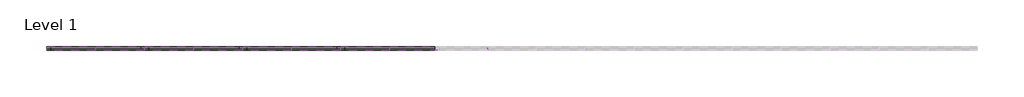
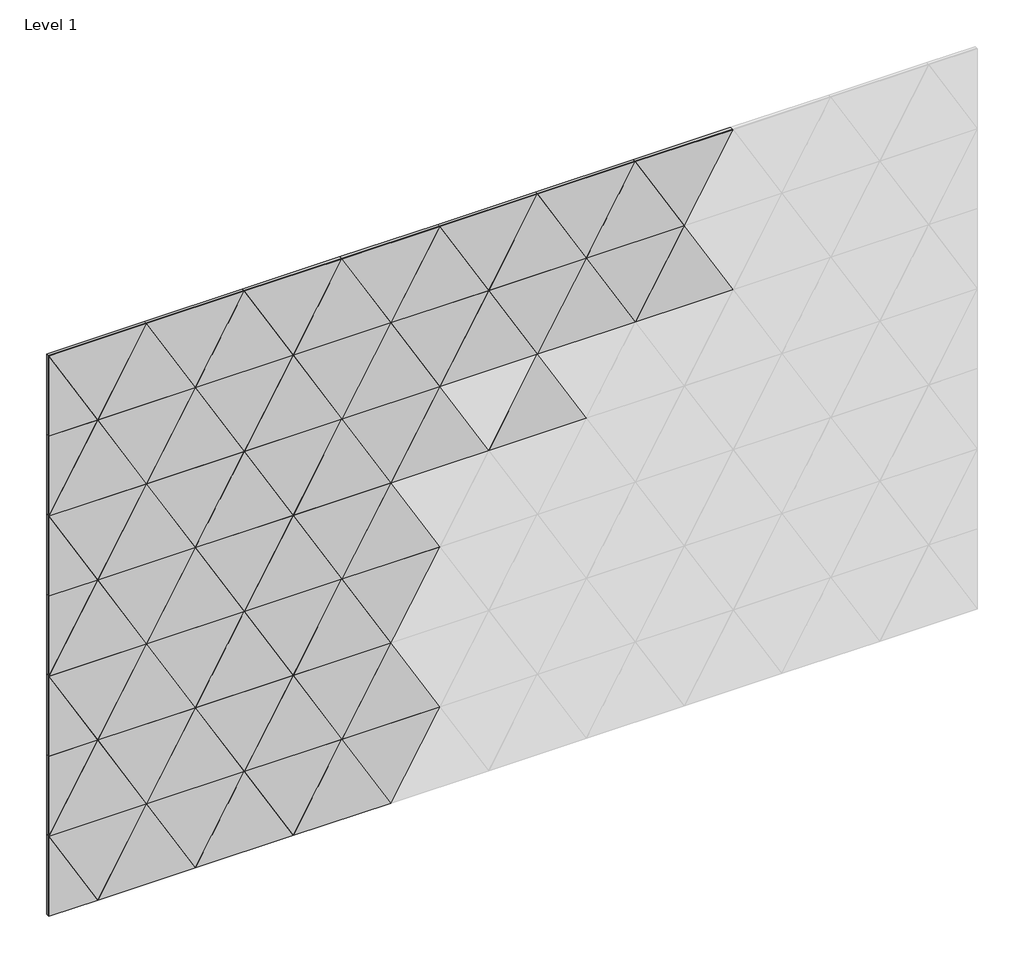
# One storey, part 1 of 2: 70 proxies.
"""IFC4 building model written with IfcOpenShell, lengths in millimetres."""

from ifc_helpers import new_model, si_unit, origin, place, context, project, spatial, transform, mapped, element, save
from components import triangle_60_block_95fa7baf, triangle_60_block_31d98bf3, triangle_60_block_745a5d07

model = new_model("IFC4")

# Units and contexts
model_context = context("Model", 3, world=origin())
ifc_project = project(units=[si_unit("LENGTHUNIT", "METRE", prefix="MILLI")], contexts=[model_context])

# Site, building, storey
site = spatial("IfcSite", under=ifc_project)
building = spatial("IfcBuilding", under=site)
storey = spatial("IfcBuildingStorey", under=building, Name="Level 1", Elevation=0.0)

# Proxies
placement = place(None, origin())
triangle_60_block_shape = triangle_60_block_95fa7baf(model_context)
element("IfcBuildingElementProxy", 1, Name="FilzFelt_Triangle_60_Block : Triangle 60 Block", ObjectType="FilzFelt_Triangle_60_Block : Triangle 60 Block", at=placement, inside=storey, context=model_context, shape_type="MappedRepresentation", body=[
    mapped(triangle_60_block_shape, transform((47358.81159, -3215.9647205, 2243.3090029), x_axis=(1.0, 0.0, 0.0), y_axis=(0.0, 0.0, 1.0), z_axis=(0.0, -1.0, 0.0))),
])
element("IfcBuildingElementProxy", 2, Name="FilzFelt_Triangle_60_Block : Triangle 60 Block", ObjectType="FilzFelt_Triangle_60_Block : Triangle 60 Block", at=placement, inside=storey, context=model_context, shape_type="MappedRepresentation", body=[
    mapped(triangle_60_block_shape, transform((48063.66159, -3215.9647205, 2243.3090029), x_axis=(1.0, 0.0, 0.0), y_axis=(0.0, 0.0, 1.0), z_axis=(0.0, -1.0, 0.0))),
])
element("IfcBuildingElementProxy", 3, Name="FilzFelt_Triangle_60_Block : Triangle 60 Block", ObjectType="FilzFelt_Triangle_60_Block : Triangle 60 Block", at=placement, inside=storey, context=model_context, shape_type="MappedRepresentation", body=[
    mapped(triangle_60_block_shape, transform((48592.29909, -3215.9647205, 2243.5180059), x_axis=(-1.0, 0.0, 0.0), y_axis=(0.0, 0.0, -1.0), z_axis=(0.0, -1.0, 0.0))),
])
element("IfcBuildingElementProxy", 4, Name="FilzFelt_Triangle_60_Block : Triangle 60 Block", ObjectType="FilzFelt_Triangle_60_Block : Triangle 60 Block", at=placement, inside=storey, context=model_context, shape_type="MappedRepresentation", body=[
    mapped(triangle_60_block_shape, transform((46830.17409, -3215.9647205, 2243.5180059), x_axis=(-1.0, 0.0, 0.0), y_axis=(0.0, 0.0, -1.0), z_axis=(0.0, -1.0, 0.0))),
])
element("IfcBuildingElementProxy", 5, Name="FilzFelt_Triangle_60_Block : Triangle 60 Block", ObjectType="FilzFelt_Triangle_60_Block : Triangle 60 Block", at=placement, inside=storey, context=model_context, shape_type="MappedRepresentation", body=[
    mapped(triangle_60_block_shape, transform((47006.38659, -3215.9647205, 1938.3090029), x_axis=(-1.0, 0.0, 0.0), y_axis=(0.0, 0.0, -1.0), z_axis=(0.0, -1.0, 0.0))),
])
element("IfcBuildingElementProxy", 6, Name="FilzFelt_Triangle_60_Block : Triangle 60 Block", ObjectType="FilzFelt_Triangle_60_Block : Triangle 60 Block", at=placement, inside=storey, context=model_context, shape_type="MappedRepresentation", body=[
    mapped(triangle_60_block_shape, transform((47711.23659, -3215.9647205, 1938.3090029), x_axis=(-1.0, 0.0, 0.0), y_axis=(0.0, 0.0, -1.0), z_axis=(0.0, -1.0, 0.0))),
])
element("IfcBuildingElementProxy", 7, Name="FilzFelt_Triangle_60_Block : Triangle 60 Block", ObjectType="FilzFelt_Triangle_60_Block : Triangle 60 Block", at=placement, inside=storey, context=model_context, shape_type="MappedRepresentation", body=[
    mapped(triangle_60_block_shape, transform((48768.51159, -3215.9647205, 1938.3090029), x_axis=(-1.0, 0.0, 0.0), y_axis=(0.0, 0.0, -1.0), z_axis=(0.0, -1.0, 0.0))),
])
element("IfcBuildingElementProxy", 8, Name="FilzFelt_Triangle_60_Block : Triangle 60 Block", ObjectType="FilzFelt_Triangle_60_Block : Triangle 60 Block", at=placement, inside=storey, context=model_context, shape_type="MappedRepresentation", body=[
    mapped(triangle_60_block_shape, transform((47535.02409, -3215.9647205, 1633.1), x_axis=(-1.0, 0.0, 0.0), y_axis=(0.0, 0.0, -1.0), z_axis=(0.0, -1.0, 0.0))),
])
element("IfcBuildingElementProxy", 9, Name="FilzFelt_Triangle_60_Block : Triangle 60 Block", ObjectType="FilzFelt_Triangle_60_Block : Triangle 60 Block", at=placement, inside=storey, context=model_context, shape_type="MappedRepresentation", body=[
    mapped(triangle_60_block_shape, transform((46830.17409, -3215.9647205, 1633.1), x_axis=(-1.0, 0.0, 0.0), y_axis=(0.0, 0.0, -1.0), z_axis=(0.0, -1.0, 0.0))),
])
element("IfcBuildingElementProxy", 10, Name="FilzFelt_Triangle_60_Block : Triangle 60 Block", ObjectType="FilzFelt_Triangle_60_Block : Triangle 60 Block", at=placement, inside=storey, context=model_context, shape_type="MappedRepresentation", body=[
    mapped(triangle_60_block_shape, transform((47182.59909, -3215.9647205, 1327.6819941), x_axis=(1.0, 0.0, 0.0), y_axis=(0.0, 0.0, 1.0), z_axis=(0.0, -1.0, 0.0))),
])
element("IfcBuildingElementProxy", 11, Name="FilzFelt_Triangle_60_Block : Triangle 60 Block", ObjectType="FilzFelt_Triangle_60_Block : Triangle 60 Block", at=placement, inside=storey, context=model_context, shape_type="MappedRepresentation", body=[
    mapped(triangle_60_block_shape, transform((47887.44909, -3215.9647205, 1327.6819941), x_axis=(1.0, 0.0, 0.0), y_axis=(0.0, 0.0, 1.0), z_axis=(0.0, -1.0, 0.0))),
])
element("IfcBuildingElementProxy", 12, Name="FilzFelt_Triangle_60_Block : Triangle 60 Block", ObjectType="FilzFelt_Triangle_60_Block : Triangle 60 Block", at=placement, inside=storey, context=model_context, shape_type="MappedRepresentation", body=[
    mapped(triangle_60_block_shape, transform((47006.38659, -3215.9647205, 1022.4729912), x_axis=(1.0, 0.0, 0.0), y_axis=(0.0, 0.0, 1.0), z_axis=(0.0, -1.0, 0.0))),
])
element("IfcBuildingElementProxy", 13, Name="FilzFelt_Triangle_60_Block : Triangle 60 Block", ObjectType="FilzFelt_Triangle_60_Block : Triangle 60 Block", at=placement, inside=storey, context=model_context, shape_type="MappedRepresentation", body=[
    mapped(triangle_60_block_shape, transform((47358.81159, -3215.9647205, 1022.4729912), x_axis=(1.0, 0.0, 0.0), y_axis=(0.0, 0.0, 1.0), z_axis=(0.0, -1.0, 0.0))),
])
element("IfcBuildingElementProxy", 14, Name="FilzFelt_Triangle_60_Block : Triangle 60 Block", ObjectType="FilzFelt_Triangle_60_Block : Triangle 60 Block", at=placement, inside=storey, context=model_context, shape_type="MappedRepresentation", body=[
    mapped(triangle_60_block_shape, transform((47711.23659, -3215.9647205, 1022.4729912), x_axis=(1.0, 0.0, 0.0), y_axis=(0.0, 0.0, 1.0), z_axis=(0.0, -1.0, 0.0))),
])
element("IfcBuildingElementProxy", 15, Name="FilzFelt_Triangle_60_Block : Triangle 60 Block", ObjectType="FilzFelt_Triangle_60_Block : Triangle 60 Block", at=placement, inside=storey, context=model_context, shape_type="MappedRepresentation", body=[
    mapped(triangle_60_block_shape, transform((47535.02409, -3215.9647205, 1022.6819941), x_axis=(-1.0, 0.0, 0.0), y_axis=(0.0, 0.0, -1.0), z_axis=(0.0, -1.0, 0.0))),
])
element("IfcBuildingElementProxy", 16, Name="FilzFelt_Triangle_60_Block : Triangle 60 Block", ObjectType="FilzFelt_Triangle_60_Block : Triangle 60 Block", at=placement, inside=storey, context=model_context, shape_type="MappedRepresentation", body=[
    mapped(triangle_60_block_shape, transform((47358.81159, -3215.9647205, 717.4729912), x_axis=(-1.0, 0.0, 0.0), y_axis=(0.0, 0.0, -1.0), z_axis=(0.0, -1.0, 0.0))),
])
element("IfcBuildingElementProxy", 17, Name="FilzFelt_Triangle_60_Block : Triangle 60 Block", ObjectType="FilzFelt_Triangle_60_Block : Triangle 60 Block", at=placement, inside=storey, context=model_context, shape_type="MappedRepresentation", body=[
    mapped(triangle_60_block_shape, transform((47535.02409, -3215.9647205, 412.2639883), x_axis=(-1.0, 0.0, 0.0), y_axis=(0.0, 0.0, -1.0), z_axis=(0.0, -1.0, 0.0))),
])
triangle_60_block_2_shape = triangle_60_block_31d98bf3(model_context)
element("IfcBuildingElementProxy", 18, Name="FilzFelt_Triangle_60_Block : Triangle 60 Block", ObjectType="FilzFelt_Triangle_60_Block : Triangle 60 Block", at=placement, inside=storey, context=model_context, shape_type="MappedRepresentation", body=[
    mapped(triangle_60_block_2_shape, transform((46653.96159, -3215.9647205, 412.0549854), x_axis=(1.0, 0.0, 0.0), y_axis=(0.0, 0.0, 1.0), z_axis=(0.0, -1.0, 0.0))),
])
element("IfcBuildingElementProxy", 19, Name="FilzFelt_Triangle_60_Block : Triangle 60 Block", ObjectType="FilzFelt_Triangle_60_Block : Triangle 60 Block", at=placement, inside=storey, context=model_context, shape_type="MappedRepresentation", body=[
    mapped(triangle_60_block_shape, transform((47006.38659, -3215.9647205, 2243.3090029), x_axis=(1.0, 0.0, 0.0), y_axis=(0.0, 0.0, 1.0), z_axis=(0.0, -1.0, 0.0))),
])
element("IfcBuildingElementProxy", 20, Name="FilzFelt_Triangle_60_Block : Triangle 60 Block", ObjectType="FilzFelt_Triangle_60_Block : Triangle 60 Block", at=placement, inside=storey, context=model_context, shape_type="MappedRepresentation", body=[
    mapped(triangle_60_block_shape, transform((48416.08659, -3215.9647205, 2243.3090029), x_axis=(1.0, 0.0, 0.0), y_axis=(0.0, 0.0, 1.0), z_axis=(0.0, -1.0, 0.0))),
])
element("IfcBuildingElementProxy", 21, Name="FilzFelt_Triangle_60_Block : Triangle 60 Block", ObjectType="FilzFelt_Triangle_60_Block : Triangle 60 Block", at=placement, inside=storey, context=model_context, shape_type="MappedRepresentation", body=[
    mapped(triangle_60_block_shape, transform((47535.02409, -3215.9647205, 2243.5180059), x_axis=(-1.0, 0.0, 0.0), y_axis=(0.0, 0.0, -1.0), z_axis=(0.0, -1.0, 0.0))),
])
element("IfcBuildingElementProxy", 22, Name="FilzFelt_Triangle_60_Block : Triangle 60 Block", ObjectType="FilzFelt_Triangle_60_Block : Triangle 60 Block", at=placement, inside=storey, context=model_context, shape_type="MappedRepresentation", body=[
    mapped(triangle_60_block_shape, transform((47887.44909, -3215.9647205, 2243.5180059), x_axis=(-1.0, 0.0, 0.0), y_axis=(0.0, 0.0, -1.0), z_axis=(0.0, -1.0, 0.0))),
])
element("IfcBuildingElementProxy", 23, Name="FilzFelt_Triangle_60_Block : Triangle 60 Block", ObjectType="FilzFelt_Triangle_60_Block : Triangle 60 Block", at=placement, inside=storey, context=model_context, shape_type="MappedRepresentation", body=[
    mapped(triangle_60_block_shape, transform((48944.72409, -3215.9647205, 2243.5180059), x_axis=(-1.0, 0.0, 0.0), y_axis=(0.0, 0.0, -1.0), z_axis=(0.0, -1.0, 0.0))),
])
element("IfcBuildingElementProxy", 24, Name="FilzFelt_Triangle_60_Block : Triangle 60 Block", ObjectType="FilzFelt_Triangle_60_Block : Triangle 60 Block", at=placement, inside=storey, context=model_context, shape_type="MappedRepresentation", body=[
    mapped(triangle_60_block_shape, transform((47182.59909, -3215.9647205, 1938.1), x_axis=(1.0, 0.0, 0.0), y_axis=(0.0, 0.0, 1.0), z_axis=(0.0, -1.0, 0.0))),
])
element("IfcBuildingElementProxy", 25, Name="FilzFelt_Triangle_60_Block : Triangle 60 Block", ObjectType="FilzFelt_Triangle_60_Block : Triangle 60 Block", at=placement, inside=storey, context=model_context, shape_type="MappedRepresentation", body=[
    mapped(triangle_60_block_shape, transform((48239.87409, -3215.9647205, 1938.1), x_axis=(1.0, 0.0, 0.0), y_axis=(0.0, 0.0, 1.0), z_axis=(0.0, -1.0, 0.0))),
])
element("IfcBuildingElementProxy", 26, Name="FilzFelt_Triangle_60_Block : Triangle 60 Block", ObjectType="FilzFelt_Triangle_60_Block : Triangle 60 Block", at=placement, inside=storey, context=model_context, shape_type="MappedRepresentation", body=[
    mapped(triangle_60_block_shape, transform((47006.38659, -3215.9647205, 1632.8909971), x_axis=(1.0, 0.0, 0.0), y_axis=(0.0, 0.0, 1.0), z_axis=(0.0, -1.0, 0.0))),
])
element("IfcBuildingElementProxy", 27, Name="FilzFelt_Triangle_60_Block : Triangle 60 Block", ObjectType="FilzFelt_Triangle_60_Block : Triangle 60 Block", at=placement, inside=storey, context=model_context, shape_type="MappedRepresentation", body=[
    mapped(triangle_60_block_shape, transform((47887.44909, -3215.9647205, 1633.1), x_axis=(-1.0, 0.0, 0.0), y_axis=(0.0, 0.0, -1.0), z_axis=(0.0, -1.0, 0.0))),
])
element("IfcBuildingElementProxy", 28, Name="FilzFelt_Triangle_60_Block : Triangle 60 Block", ObjectType="FilzFelt_Triangle_60_Block : Triangle 60 Block", at=placement, inside=storey, context=model_context, shape_type="MappedRepresentation", body=[
    mapped(triangle_60_block_shape, transform((47358.81159, -3215.9647205, 1327.8909971), x_axis=(-1.0, 0.0, 0.0), y_axis=(0.0, 0.0, -1.0), z_axis=(0.0, -1.0, 0.0))),
])
element("IfcBuildingElementProxy", 29, Name="FilzFelt_Triangle_60_Block : Triangle 60 Block", ObjectType="FilzFelt_Triangle_60_Block : Triangle 60 Block", at=placement, inside=storey, context=model_context, shape_type="MappedRepresentation", body=[
    mapped(triangle_60_block_shape, transform((47711.23659, -3215.9647205, 1327.8909971), x_axis=(-1.0, 0.0, 0.0), y_axis=(0.0, 0.0, -1.0), z_axis=(0.0, -1.0, 0.0))),
])
element("IfcBuildingElementProxy", 30, Name="FilzFelt_Triangle_60_Block : Triangle 60 Block", ObjectType="FilzFelt_Triangle_60_Block : Triangle 60 Block", at=placement, inside=storey, context=model_context, shape_type="MappedRepresentation", body=[
    mapped(triangle_60_block_shape, transform((46830.17409, -3215.9647205, 1022.6819941), x_axis=(-1.0, 0.0, 0.0), y_axis=(0.0, 0.0, -1.0), z_axis=(0.0, -1.0, 0.0))),
])
element("IfcBuildingElementProxy", 31, Name="FilzFelt_Triangle_60_Block : Triangle 60 Block", ObjectType="FilzFelt_Triangle_60_Block : Triangle 60 Block", at=placement, inside=storey, context=model_context, shape_type="MappedRepresentation", body=[
    mapped(triangle_60_block_shape, transform((47006.38659, -3215.9647205, 717.4729912), x_axis=(-1.0, 0.0, 0.0), y_axis=(0.0, 0.0, -1.0), z_axis=(0.0, -1.0, 0.0))),
])
element("IfcBuildingElementProxy", 32, Name="FilzFelt_Triangle_60_Block : Triangle 60 Block", ObjectType="FilzFelt_Triangle_60_Block : Triangle 60 Block", at=placement, inside=storey, context=model_context, shape_type="MappedRepresentation", body=[
    mapped(triangle_60_block_shape, transform((47535.02409, -3215.9647205, 717.2639883), x_axis=(1.0, 0.0, 0.0), y_axis=(0.0, 0.0, 1.0), z_axis=(0.0, -1.0, 0.0))),
])
element("IfcBuildingElementProxy", 33, Name="FilzFelt_Triangle_60_Block : Triangle 60 Block", ObjectType="FilzFelt_Triangle_60_Block : Triangle 60 Block", at=placement, inside=storey, context=model_context, shape_type="MappedRepresentation", body=[
    mapped(triangle_60_block_shape, transform((47887.44909, -3215.9647205, 717.2639883), x_axis=(1.0, 0.0, 0.0), y_axis=(0.0, 0.0, 1.0), z_axis=(0.0, -1.0, 0.0))),
])
element("IfcBuildingElementProxy", 34, Name="FilzFelt_Triangle_60_Block : Triangle 60 Block", ObjectType="FilzFelt_Triangle_60_Block : Triangle 60 Block", at=placement, inside=storey, context=model_context, shape_type="MappedRepresentation", body=[
    mapped(triangle_60_block_shape, transform((47711.23659, -3215.9647205, 412.0549854), x_axis=(1.0, 0.0, 0.0), y_axis=(0.0, 0.0, 1.0), z_axis=(0.0, -1.0, 0.0))),
])
element("IfcBuildingElementProxy", 35, Name="FilzFelt_Triangle_60_Block : Triangle 60 Block", ObjectType="FilzFelt_Triangle_60_Block : Triangle 60 Block", at=placement, inside=storey, context=model_context, shape_type="MappedRepresentation", body=[
    mapped(triangle_60_block_shape, transform((47182.59909, -3215.9647205, 412.2639883), x_axis=(-1.0, 0.0, 0.0), y_axis=(0.0, 0.0, -1.0), z_axis=(0.0, -1.0, 0.0))),
])
element("IfcBuildingElementProxy", 36, Name="FilzFelt_Triangle_60_Block : Triangle 60 Block", ObjectType="FilzFelt_Triangle_60_Block : Triangle 60 Block", at=placement, inside=storey, context=model_context, shape_type="MappedRepresentation", body=[
    mapped(triangle_60_block_shape, transform((46830.17409, -3215.9647205, 412.2639883), x_axis=(-1.0, 0.0, 0.0), y_axis=(0.0, 0.0, -1.0), z_axis=(0.0, -1.0, 0.0))),
])
triangle_60_block_3_shape = triangle_60_block_745a5d07(model_context)
element("IfcBuildingElementProxy", 37, Name="FilzFelt_Triangle_60_Block : Triangle 60 Block", ObjectType="FilzFelt_Triangle_60_Block : Triangle 60 Block", at=placement, inside=storey, context=model_context, shape_type="MappedRepresentation", body=[
    mapped(triangle_60_block_3_shape, transform((46653.96159, -3215.9647205, 1938.3090029), x_axis=(1.0, 0.0, 0.0), y_axis=(0.0, 0.0, 1.0), z_axis=(0.0, -1.0, 0.0))),
])
element("IfcBuildingElementProxy", 38, Name="FilzFelt_Triangle_60_Block : Triangle 60 Block", ObjectType="FilzFelt_Triangle_60_Block : Triangle 60 Block", at=placement, inside=storey, context=model_context, shape_type="MappedRepresentation", body=[
    mapped(triangle_60_block_3_shape, transform((46653.96159, -3215.9647205, 1327.8909971), x_axis=(1.0, 0.0, 0.0), y_axis=(0.0, 0.0, 1.0), z_axis=(0.0, -1.0, 0.0))),
])
element("IfcBuildingElementProxy", 39, Name="FilzFelt_Triangle_60_Block : Triangle 60 Block", ObjectType="FilzFelt_Triangle_60_Block : Triangle 60 Block", at=placement, inside=storey, context=model_context, shape_type="MappedRepresentation", body=[
    mapped(triangle_60_block_shape, transform((47711.23659, -3215.9647205, 2243.3090029), x_axis=(1.0, 0.0, 0.0), y_axis=(0.0, 0.0, 1.0), z_axis=(0.0, -1.0, 0.0))),
])
element("IfcBuildingElementProxy", 40, Name="FilzFelt_Triangle_60_Block : Triangle 60 Block", ObjectType="FilzFelt_Triangle_60_Block : Triangle 60 Block", at=placement, inside=storey, context=model_context, shape_type="MappedRepresentation", body=[
    mapped(triangle_60_block_shape, transform((48768.51159, -3215.9647205, 2243.3090029), x_axis=(1.0, 0.0, 0.0), y_axis=(0.0, 0.0, 1.0), z_axis=(0.0, -1.0, 0.0))),
])
element("IfcBuildingElementProxy", 41, Name="FilzFelt_Triangle_60_Block : Triangle 60 Block", ObjectType="FilzFelt_Triangle_60_Block : Triangle 60 Block", at=placement, inside=storey, context=model_context, shape_type="MappedRepresentation", body=[
    mapped(triangle_60_block_shape, transform((46830.17409, -3215.9647205, 1938.1), x_axis=(1.0, 0.0, 0.0), y_axis=(0.0, 0.0, 1.0), z_axis=(0.0, -1.0, 0.0))),
])
element("IfcBuildingElementProxy", 42, Name="FilzFelt_Triangle_60_Block : Triangle 60 Block", ObjectType="FilzFelt_Triangle_60_Block : Triangle 60 Block", at=placement, inside=storey, context=model_context, shape_type="MappedRepresentation", body=[
    mapped(triangle_60_block_shape, transform((47358.81159, -3215.9647205, 1938.3090029), x_axis=(-1.0, 0.0, 0.0), y_axis=(0.0, 0.0, -1.0), z_axis=(0.0, -1.0, 0.0))),
])
element("IfcBuildingElementProxy", 43, Name="FilzFelt_Triangle_60_Block : Triangle 60 Block", ObjectType="FilzFelt_Triangle_60_Block : Triangle 60 Block", at=placement, inside=storey, context=model_context, shape_type="MappedRepresentation", body=[
    mapped(triangle_60_block_shape, transform((47887.44909, -3215.9647205, 1938.1), x_axis=(1.0, 0.0, 0.0), y_axis=(0.0, 0.0, 1.0), z_axis=(0.0, -1.0, 0.0))),
])
element("IfcBuildingElementProxy", 44, Name="FilzFelt_Triangle_60_Block : Triangle 60 Block", ObjectType="FilzFelt_Triangle_60_Block : Triangle 60 Block", at=placement, inside=storey, context=model_context, shape_type="MappedRepresentation", body=[
    mapped(triangle_60_block_shape, transform((48416.08659, -3215.9647205, 1938.3090029), x_axis=(-1.0, 0.0, 0.0), y_axis=(0.0, 0.0, -1.0), z_axis=(0.0, -1.0, 0.0))),
])
element("IfcBuildingElementProxy", 45, Name="FilzFelt_Triangle_60_Block : Triangle 60 Block", ObjectType="FilzFelt_Triangle_60_Block : Triangle 60 Block", at=placement, inside=storey, context=model_context, shape_type="MappedRepresentation", body=[
    mapped(triangle_60_block_shape, transform((48944.72409, -3215.9647205, 1938.1), x_axis=(1.0, 0.0, 0.0), y_axis=(0.0, 0.0, 1.0), z_axis=(0.0, -1.0, 0.0))),
])
element("IfcBuildingElementProxy", 46, Name="FilzFelt_Triangle_60_Block : Triangle 60 Block", ObjectType="FilzFelt_Triangle_60_Block : Triangle 60 Block", at=placement, inside=storey, context=model_context, shape_type="MappedRepresentation", body=[
    mapped(triangle_60_block_shape, transform((47358.81159, -3215.9647205, 1632.8909971), x_axis=(1.0, 0.0, 0.0), y_axis=(0.0, 0.0, 1.0), z_axis=(0.0, -1.0, 0.0))),
])
element("IfcBuildingElementProxy", 47, Name="FilzFelt_Triangle_60_Block : Triangle 60 Block", ObjectType="FilzFelt_Triangle_60_Block : Triangle 60 Block", at=placement, inside=storey, context=model_context, shape_type="MappedRepresentation", body=[
    mapped(triangle_60_block_shape, transform((48063.66159, -3215.9647205, 1632.8909971), x_axis=(1.0, 0.0, 0.0), y_axis=(0.0, 0.0, 1.0), z_axis=(0.0, -1.0, 0.0))),
])
element("IfcBuildingElementProxy", 48, Name="FilzFelt_Triangle_60_Block : Triangle 60 Block", ObjectType="FilzFelt_Triangle_60_Block : Triangle 60 Block", at=placement, inside=storey, context=model_context, shape_type="MappedRepresentation", body=[
    mapped(triangle_60_block_shape, transform((47006.38659, -3215.9647205, 1327.8909971), x_axis=(-1.0, 0.0, 0.0), y_axis=(0.0, 0.0, -1.0), z_axis=(0.0, -1.0, 0.0))),
])
element("IfcBuildingElementProxy", 49, Name="FilzFelt_Triangle_60_Block : Triangle 60 Block", ObjectType="FilzFelt_Triangle_60_Block : Triangle 60 Block", at=placement, inside=storey, context=model_context, shape_type="MappedRepresentation", body=[
    mapped(triangle_60_block_shape, transform((47535.02409, -3215.9647205, 1327.6819941), x_axis=(1.0, 0.0, 0.0), y_axis=(0.0, 0.0, 1.0), z_axis=(0.0, -1.0, 0.0))),
])
element("IfcBuildingElementProxy", 50, Name="FilzFelt_Triangle_60_Block : Triangle 60 Block", ObjectType="FilzFelt_Triangle_60_Block : Triangle 60 Block", at=placement, inside=storey, context=model_context, shape_type="MappedRepresentation", body=[
    mapped(triangle_60_block_shape, transform((46830.17409, -3215.9647205, 717.2639883), x_axis=(1.0, 0.0, 0.0), y_axis=(0.0, 0.0, 1.0), z_axis=(0.0, -1.0, 0.0))),
])
element("IfcBuildingElementProxy", 51, Name="FilzFelt_Triangle_60_Block : Triangle 60 Block", ObjectType="FilzFelt_Triangle_60_Block : Triangle 60 Block", at=placement, inside=storey, context=model_context, shape_type="MappedRepresentation", body=[
    mapped(triangle_60_block_shape, transform((47182.59909, -3215.9647205, 717.2639883), x_axis=(1.0, 0.0, 0.0), y_axis=(0.0, 0.0, 1.0), z_axis=(0.0, -1.0, 0.0))),
])
element("IfcBuildingElementProxy", 52, Name="FilzFelt_Triangle_60_Block : Triangle 60 Block", ObjectType="FilzFelt_Triangle_60_Block : Triangle 60 Block", at=placement, inside=storey, context=model_context, shape_type="MappedRepresentation", body=[
    mapped(triangle_60_block_shape, transform((47358.81159, -3215.9647205, 412.0549854), x_axis=(1.0, 0.0, 0.0), y_axis=(0.0, 0.0, 1.0), z_axis=(0.0, -1.0, 0.0))),
])
element("IfcBuildingElementProxy", 53, Name="FilzFelt_Triangle_60_Block : Triangle 60 Block", ObjectType="FilzFelt_Triangle_60_Block : Triangle 60 Block", at=placement, inside=storey, context=model_context, shape_type="MappedRepresentation", body=[
    mapped(triangle_60_block_2_shape, transform((46653.96159, -3215.9647205, 1022.4729912), x_axis=(1.0, 0.0, 0.0), y_axis=(0.0, 0.0, 1.0), z_axis=(0.0, -1.0, 0.0))),
])
element("IfcBuildingElementProxy", 54, Name="FilzFelt_Triangle_60_Block : Triangle 60 Block", ObjectType="FilzFelt_Triangle_60_Block : Triangle 60 Block", at=placement, inside=storey, context=model_context, shape_type="MappedRepresentation", body=[
    mapped(triangle_60_block_shape, transform((47182.59909, -3215.9647205, 2243.5180059), x_axis=(-1.0, 0.0, 0.0), y_axis=(0.0, 0.0, -1.0), z_axis=(0.0, -1.0, 0.0))),
])
element("IfcBuildingElementProxy", 55, Name="FilzFelt_Triangle_60_Block : Triangle 60 Block", ObjectType="FilzFelt_Triangle_60_Block : Triangle 60 Block", at=placement, inside=storey, context=model_context, shape_type="MappedRepresentation", body=[
    mapped(triangle_60_block_shape, transform((48239.87409, -3215.9647205, 2243.5180059), x_axis=(-1.0, 0.0, 0.0), y_axis=(0.0, 0.0, -1.0), z_axis=(0.0, -1.0, 0.0))),
])
element("IfcBuildingElementProxy", 56, Name="FilzFelt_Triangle_60_Block : Triangle 60 Block", ObjectType="FilzFelt_Triangle_60_Block : Triangle 60 Block", at=placement, inside=storey, context=model_context, shape_type="MappedRepresentation", body=[
    mapped(triangle_60_block_shape, transform((47535.02409, -3215.9647205, 1938.1), x_axis=(1.0, 0.0, 0.0), y_axis=(0.0, 0.0, 1.0), z_axis=(0.0, -1.0, 0.0))),
])
element("IfcBuildingElementProxy", 57, Name="FilzFelt_Triangle_60_Block : Triangle 60 Block", ObjectType="FilzFelt_Triangle_60_Block : Triangle 60 Block", at=placement, inside=storey, context=model_context, shape_type="MappedRepresentation", body=[
    mapped(triangle_60_block_shape, transform((48063.66159, -3215.9647205, 1938.3090029), x_axis=(-1.0, 0.0, 0.0), y_axis=(0.0, 0.0, -1.0), z_axis=(0.0, -1.0, 0.0))),
])
element("IfcBuildingElementProxy", 58, Name="FilzFelt_Triangle_60_Block : Triangle 60 Block", ObjectType="FilzFelt_Triangle_60_Block : Triangle 60 Block", at=placement, inside=storey, context=model_context, shape_type="MappedRepresentation", body=[
    mapped(triangle_60_block_shape, transform((48592.29909, -3215.9647205, 1938.1), x_axis=(1.0, 0.0, 0.0), y_axis=(0.0, 0.0, 1.0), z_axis=(0.0, -1.0, 0.0))),
])
element("IfcBuildingElementProxy", 59, Name="FilzFelt_Triangle_60_Block : Triangle 60 Block", ObjectType="FilzFelt_Triangle_60_Block : Triangle 60 Block", at=placement, inside=storey, context=model_context, shape_type="MappedRepresentation", body=[
    mapped(triangle_60_block_shape, transform((47711.23659, -3215.9647205, 1632.8909971), x_axis=(1.0, 0.0, 0.0), y_axis=(0.0, 0.0, 1.0), z_axis=(0.0, -1.0, 0.0))),
])
element("IfcBuildingElementProxy", 60, Name="FilzFelt_Triangle_60_Block : Triangle 60 Block", ObjectType="FilzFelt_Triangle_60_Block : Triangle 60 Block", at=placement, inside=storey, context=model_context, shape_type="MappedRepresentation", body=[
    mapped(triangle_60_block_shape, transform((48416.08659, -3215.9647205, 1632.8909971), x_axis=(1.0, 0.0, 0.0), y_axis=(0.0, 0.0, 1.0), z_axis=(0.0, -1.0, 0.0))),
])
element("IfcBuildingElementProxy", 61, Name="FilzFelt_Triangle_60_Block : Triangle 60 Block", ObjectType="FilzFelt_Triangle_60_Block : Triangle 60 Block", at=placement, inside=storey, context=model_context, shape_type="MappedRepresentation", body=[
    mapped(triangle_60_block_shape, transform((47182.59909, -3215.9647205, 1633.1), x_axis=(-1.0, 0.0, 0.0), y_axis=(0.0, 0.0, -1.0), z_axis=(0.0, -1.0, 0.0))),
])
element("IfcBuildingElementProxy", 62, Name="FilzFelt_Triangle_60_Block : Triangle 60 Block", ObjectType="FilzFelt_Triangle_60_Block : Triangle 60 Block", at=placement, inside=storey, context=model_context, shape_type="MappedRepresentation", body=[
    mapped(triangle_60_block_shape, transform((46830.17409, -3215.9647205, 1327.6819941), x_axis=(1.0, 0.0, 0.0), y_axis=(0.0, 0.0, 1.0), z_axis=(0.0, -1.0, 0.0))),
])
element("IfcBuildingElementProxy", 63, Name="FilzFelt_Triangle_60_Block : Triangle 60 Block", ObjectType="FilzFelt_Triangle_60_Block : Triangle 60 Block", at=placement, inside=storey, context=model_context, shape_type="MappedRepresentation", body=[
    mapped(triangle_60_block_shape, transform((47182.59909, -3215.9647205, 1022.6819941), x_axis=(-1.0, 0.0, 0.0), y_axis=(0.0, 0.0, -1.0), z_axis=(0.0, -1.0, 0.0))),
])
element("IfcBuildingElementProxy", 64, Name="FilzFelt_Triangle_60_Block : Triangle 60 Block", ObjectType="FilzFelt_Triangle_60_Block : Triangle 60 Block", at=placement, inside=storey, context=model_context, shape_type="MappedRepresentation", body=[
    mapped(triangle_60_block_shape, transform((47887.44909, -3215.9647205, 1022.6819941), x_axis=(-1.0, 0.0, 0.0), y_axis=(0.0, 0.0, -1.0), z_axis=(0.0, -1.0, 0.0))),
])
element("IfcBuildingElementProxy", 65, Name="FilzFelt_Triangle_60_Block : Triangle 60 Block", ObjectType="FilzFelt_Triangle_60_Block : Triangle 60 Block", at=placement, inside=storey, context=model_context, shape_type="MappedRepresentation", body=[
    mapped(triangle_60_block_shape, transform((47711.23659, -3215.9647205, 717.4729912), x_axis=(-1.0, 0.0, 0.0), y_axis=(0.0, 0.0, -1.0), z_axis=(0.0, -1.0, 0.0))),
])
element("IfcBuildingElementProxy", 66, Name="FilzFelt_Triangle_60_Block : Triangle 60 Block", ObjectType="FilzFelt_Triangle_60_Block : Triangle 60 Block", at=placement, inside=storey, context=model_context, shape_type="MappedRepresentation", body=[
    mapped(triangle_60_block_shape, transform((47006.38659, -3215.9647205, 412.0549854), x_axis=(1.0, 0.0, 0.0), y_axis=(0.0, 0.0, 1.0), z_axis=(0.0, -1.0, 0.0))),
])
element("IfcBuildingElementProxy", 67, Name="FilzFelt_Triangle_60_Block : Triangle 60 Block", ObjectType="FilzFelt_Triangle_60_Block : Triangle 60 Block", at=placement, inside=storey, context=model_context, shape_type="MappedRepresentation", body=[
    mapped(triangle_60_block_shape, transform((47887.44909, -3215.9647205, 412.2639883), x_axis=(-1.0, 0.0, 0.0), y_axis=(0.0, 0.0, -1.0), z_axis=(0.0, -1.0, 0.0))),
])
element("IfcBuildingElementProxy", 68, Name="FilzFelt_Triangle_60_Block : Triangle 60 Block", ObjectType="FilzFelt_Triangle_60_Block : Triangle 60 Block", at=placement, inside=storey, context=model_context, shape_type="MappedRepresentation", body=[
    mapped(triangle_60_block_2_shape, transform((46653.96159, -3215.9647205, 2243.3090029), x_axis=(1.0, 0.0, 0.0), y_axis=(0.0, 0.0, 1.0), z_axis=(0.0, -1.0, 0.0))),
])
element("IfcBuildingElementProxy", 69, Name="FilzFelt_Triangle_60_Block : Triangle 60 Block", ObjectType="FilzFelt_Triangle_60_Block : Triangle 60 Block", at=placement, inside=storey, context=model_context, shape_type="MappedRepresentation", body=[
    mapped(triangle_60_block_2_shape, transform((46653.96159, -3215.9647205, 1632.8909971), x_axis=(1.0, 0.0, 0.0), y_axis=(0.0, 0.0, 1.0), z_axis=(0.0, -1.0, 0.0))),
])
element("IfcBuildingElementProxy", 70, Name="FilzFelt_Triangle_60_Block : Triangle 60 Block", ObjectType="FilzFelt_Triangle_60_Block : Triangle 60 Block", at=placement, inside=storey, context=model_context, shape_type="MappedRepresentation", body=[
    mapped(triangle_60_block_3_shape, transform((46653.96159, -3215.9647205, 717.4729912), x_axis=(1.0, 0.0, 0.0), y_axis=(0.0, 0.0, 1.0), z_axis=(0.0, -1.0, 0.0))),
])

save(model, "model.ifc")
